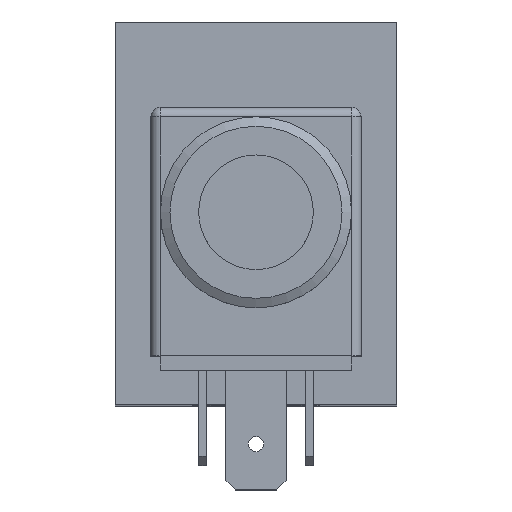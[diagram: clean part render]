
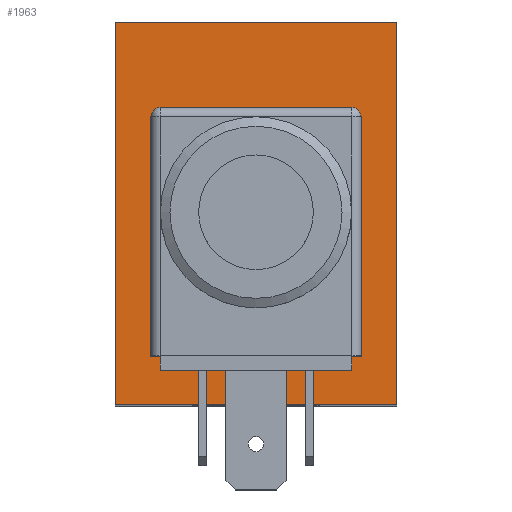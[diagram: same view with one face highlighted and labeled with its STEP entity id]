
A CAD part, top view. The second image highlights one B-rep face of the part: STEP entity #1963.
In plain terms, the highlighted planar face has unit normal (0, 0, 1).
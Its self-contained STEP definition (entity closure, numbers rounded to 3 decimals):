
#71=LINE('',#3049,#226);
#76=LINE('',#3062,#231);
#80=LINE('',#3074,#235);
#84=LINE('',#3086,#239);
#86=LINE('',#3096,#241);
#91=LINE('',#3105,#246);
#95=LINE('',#3113,#250);
#96=LINE('',#3115,#251);
#226=VECTOR('',#2502,15.);
#231=VECTOR('',#2515,15.);
#235=VECTOR('',#2527,15.);
#239=VECTOR('',#2539,15.);
#241=VECTOR('',#2551,40.);
#246=VECTOR('',#2558,29.5);
#250=VECTOR('',#2566,29.5);
#251=VECTOR('',#2569,40.);
#435=FACE_BOUND('',#698,.T.);
#436=FACE_BOUND('',#699,.T.);
#698=EDGE_LOOP('',(#1506,#1507,#1508,#1509,#1510,#1511,#1512,#1513));
#699=EDGE_LOOP('',(#1514,#1515,#1516,#1517));
#823=CIRCLE('',#2137,3.5);
#825=CIRCLE('',#2141,3.5);
#827=CIRCLE('',#2145,3.5);
#829=CIRCLE('',#2149,3.5);
#933=VERTEX_POINT('',#3046);
#934=VERTEX_POINT('',#3048);
#936=VERTEX_POINT('',#3054);
#938=VERTEX_POINT('',#3060);
#940=VERTEX_POINT('',#3066);
#942=VERTEX_POINT('',#3072);
#944=VERTEX_POINT('',#3078);
#946=VERTEX_POINT('',#3084);
#947=VERTEX_POINT('',#3092);
#949=VERTEX_POINT('',#3095);
#951=VERTEX_POINT('',#3101);
#954=VERTEX_POINT('',#3111);
#1124=EDGE_CURVE('',#934,#933,#71,.T.);
#1128=EDGE_CURVE('',#933,#936,#823,.T.);
#1131=EDGE_CURVE('',#936,#938,#76,.T.);
#1134=EDGE_CURVE('',#938,#940,#825,.T.);
#1137=EDGE_CURVE('',#940,#942,#80,.T.);
#1140=EDGE_CURVE('',#942,#944,#827,.T.);
#1143=EDGE_CURVE('',#944,#946,#84,.T.);
#1145=EDGE_CURVE('',#946,#934,#829,.T.);
#1147=EDGE_CURVE('',#949,#947,#86,.T.);
#1152=EDGE_CURVE('',#951,#949,#91,.T.);
#1156=EDGE_CURVE('',#947,#954,#95,.T.);
#1157=EDGE_CURVE('',#954,#951,#96,.T.);
#1506=ORIENTED_EDGE('',*,*,#1124,.T.);
#1507=ORIENTED_EDGE('',*,*,#1128,.T.);
#1508=ORIENTED_EDGE('',*,*,#1131,.T.);
#1509=ORIENTED_EDGE('',*,*,#1134,.T.);
#1510=ORIENTED_EDGE('',*,*,#1137,.T.);
#1511=ORIENTED_EDGE('',*,*,#1140,.T.);
#1512=ORIENTED_EDGE('',*,*,#1143,.T.);
#1513=ORIENTED_EDGE('',*,*,#1145,.T.);
#1514=ORIENTED_EDGE('',*,*,#1157,.T.);
#1515=ORIENTED_EDGE('',*,*,#1152,.T.);
#1516=ORIENTED_EDGE('',*,*,#1147,.T.);
#1517=ORIENTED_EDGE('',*,*,#1156,.T.);
#1780=PLANE('',#2155);
#1963=ADVANCED_FACE('',(#435,#436),#1780,.T.);
#2137=AXIS2_PLACEMENT_3D('',#3056,#2509,#2510);
#2141=AXIS2_PLACEMENT_3D('',#3068,#2521,#2522);
#2145=AXIS2_PLACEMENT_3D('',#3080,#2533,#2534);
#2149=AXIS2_PLACEMENT_3D('',#3089,#2544,#2545);
#2155=AXIS2_PLACEMENT_3D('',#3114,#2567,#2568);
#2502=DIRECTION('',(1.,0.,0.));
#2509=DIRECTION('center_axis',(0.,0.,-1.));
#2510=DIRECTION('ref_axis',(-1.,0.,0.));
#2515=DIRECTION('',(0.,-1.,0.));
#2521=DIRECTION('center_axis',(0.,0.,-1.));
#2522=DIRECTION('ref_axis',(0.,1.,0.));
#2527=DIRECTION('',(-1.,0.,0.));
#2533=DIRECTION('center_axis',(0.,0.,-1.));
#2534=DIRECTION('ref_axis',(1.,0.,0.));
#2539=DIRECTION('',(0.,1.,0.));
#2544=DIRECTION('center_axis',(0.,0.,-1.));
#2545=DIRECTION('ref_axis',(0.,-1.,0.));
#2551=DIRECTION('',(0.,-1.,0.));
#2558=DIRECTION('',(-1.,0.,0.));
#2566=DIRECTION('',(1.,0.,0.));
#2567=DIRECTION('center_axis',(0.,0.,1.));
#2568=DIRECTION('ref_axis',(1.,0.,0.));
#2569=DIRECTION('',(0.,1.,0.));
#3046=CARTESIAN_POINT('',(7.5,11.,61.));
#3048=CARTESIAN_POINT('',(-7.5,11.,61.));
#3049=CARTESIAN_POINT('',(-3.75,11.,61.));
#3054=CARTESIAN_POINT('',(11.,7.5,61.));
#3056=CARTESIAN_POINT('Origin',(7.5,7.5,61.));
#3060=CARTESIAN_POINT('',(11.,-7.5,61.));
#3062=CARTESIAN_POINT('',(11.,-6.25,61.));
#3066=CARTESIAN_POINT('',(7.5,-11.,61.));
#3068=CARTESIAN_POINT('Origin',(7.5,-7.5,61.));
#3072=CARTESIAN_POINT('',(-7.5,-11.,61.));
#3074=CARTESIAN_POINT('',(3.75,-11.,61.));
#3078=CARTESIAN_POINT('',(-11.,-7.5,61.));
#3080=CARTESIAN_POINT('Origin',(-7.5,-7.5,61.));
#3084=CARTESIAN_POINT('',(-11.,7.5,61.));
#3086=CARTESIAN_POINT('',(-11.,-13.75,61.));
#3089=CARTESIAN_POINT('Origin',(-7.5,7.5,61.));
#3092=CARTESIAN_POINT('',(-14.75,-20.,61.));
#3095=CARTESIAN_POINT('',(-14.75,20.,61.));
#3096=CARTESIAN_POINT('',(-14.75,-20.,61.));
#3101=CARTESIAN_POINT('',(14.75,20.,61.));
#3105=CARTESIAN_POINT('',(0.,20.,61.));
#3111=CARTESIAN_POINT('',(14.75,-20.,61.));
#3113=CARTESIAN_POINT('',(0.,-20.,61.));
#3114=CARTESIAN_POINT('Origin',(0.,-20.,61.));
#3115=CARTESIAN_POINT('',(14.75,-20.,61.));
